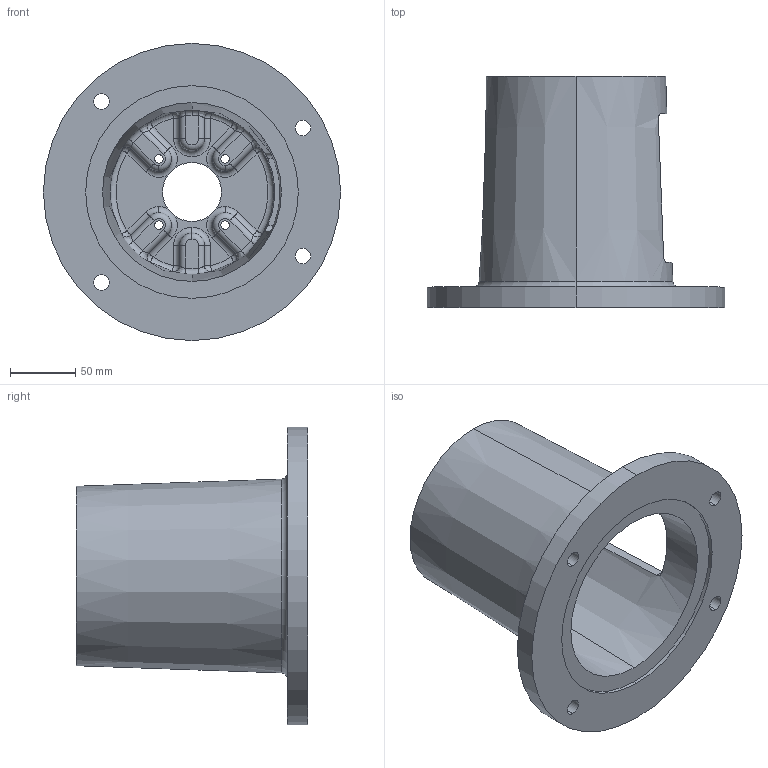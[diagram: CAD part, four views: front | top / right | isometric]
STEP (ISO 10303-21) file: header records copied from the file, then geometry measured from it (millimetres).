
FILE_DESCRIPTION (( 'STEP AP203' ), '1' );
FILE_NAME ('E700704F.STEP', '2014-11-04T13:19:19', ( '' ), ( '' ), 'SwSTEP 2.0', 'SolidWorks 2014', '' );
FILE_SCHEMA (( 'CONFIG_CONTROL_DESIGN' ));
Length unit declared in the file: inch
Products named in the file (1): E700704F
Bounding box: 228.6 x 177.8 x 228.6 mm (x, y, z)
Volume: 905191 mm3; surface area: 222217.6 mm2
Topology: 1 solids, 1 shells, 162 faces, 395 edges, 225 vertices
Faces by surface type: cylinder 59, torus 33, plane 30, bspline 24, sphere 12, cone 4
Entity records: 6342 total; most frequent: CARTESIAN_POINT 2557, DIRECTION 819, ORIENTED_EDGE 766, EDGE_CURVE 383, AXIS2_PLACEMENT_3D 361, VERTEX_POINT 225, CIRCLE 222, EDGE_LOOP 184
